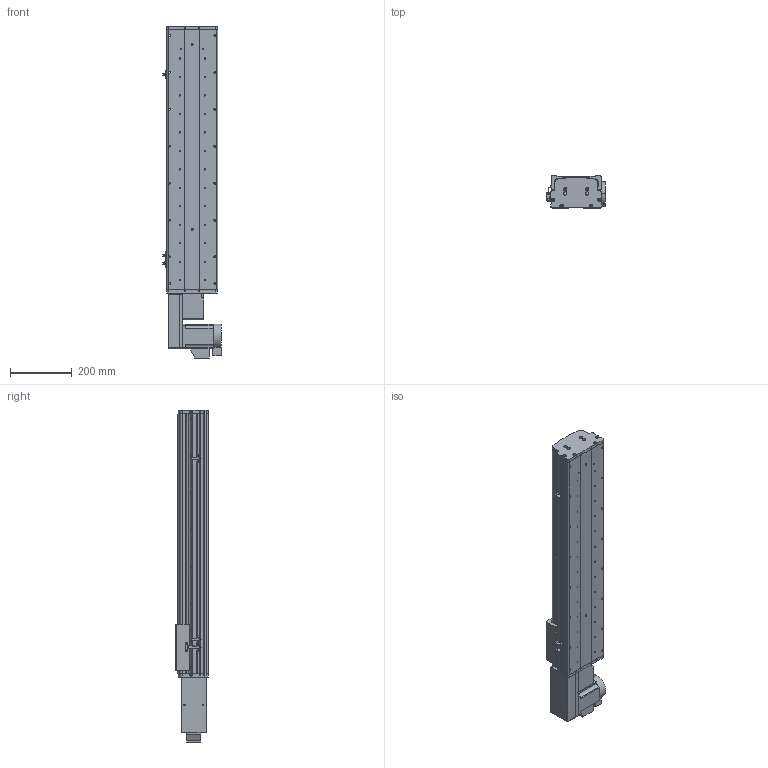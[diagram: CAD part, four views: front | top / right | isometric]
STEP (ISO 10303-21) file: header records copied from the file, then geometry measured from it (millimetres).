
FILE_DESCRIPTION (( 'STEP AP214' ), '1' );
FILE_NAME ('KSD165B-S600-MLB-CM - .STEP', '2017-10-16T06:05:58', ( '微软用户' ), ( '微软中国' ), 'SwSTEP 2.0', 'SolidWorks 2014', '' );
FILE_SCHEMA (( 'AUTOMOTIVE_DESIGN' ));
Length unit declared in the file: millimetre
Products named in the file (17): KSD165耀郪-ヶ傷啣1-肮祭湍; KSD165模组-后端板1-同步带; KSD165模组-同步带滑动座-最新版; KSD165B-S600-MLB-CM - ; HTPA26S5M250-A-H8 750W萇儂蚚; HTPA26S5M250-A-H8 400W萇儂蚚 ; 130宽模组马达安装板连板左右折同步带; 130宽模组保护罩上下左右折-同步带; 拸秶雄ん750W侜督萇儂; KSD165模组-同步带防尘盖1-600行程-最新版; KSD165模组同步带底板-600行程-最新; 165宽马达安装板同步带左-改; U倰嫖萇假蚾璃; U倰嫖萇EEㄜSX672; 覜茼え68遵圉猾敕; KSD165模组-同步带-防撞垫2; KSD165模组同步带-防撞垫1
Assembly tree (20 placements, depth 2):
  KSD165B-S600-MLB-CM - 
    KSD165模组-同步带滑动座-最新版
    KSD165模组-后端板1-同步带
    KSD165耀郪-ヶ傷啣1-肮祭湍
    KSD165模组同步带-防撞垫1
    KSD165模组-同步带-防撞垫2
    覜茼え68遵圉猾敕
    U倰嫖萇EEㄜSX672  x3
    U倰嫖萇假蚾璃  x3
    165宽马达安装板同步带左-改
    KSD165模组同步带底板-600行程-最新
    KSD165模组-同步带防尘盖1-600行程-最新版
    拸秶雄ん750W侜督萇儂
    130宽模组保护罩上下左右折-同步带
    130宽模组马达安装板连板左右折同步带
    HTPA26S5M250-A-H8 400W萇儂蚚 
    HTPA26S5M250-A-H8 750W萇儂蚚
Bounding box: 191.2 x 104 x 1078 mm (x, y, z)
Volume: 6109083 mm3; surface area: 1417760.8 mm2
Topology: 21 solids, 22 shells, 1921 faces, 5412 edges, 3532 vertices
Faces by surface type: cylinder 1225, plane 584, cone 112
Entity records: 61912 total; most frequent: CARTESIAN_POINT 12702, DIRECTION 10212, ORIENTED_EDGE 9484, EDGE_CURVE 4742, AXIS2_PLACEMENT_3D 4000, VERTEX_POINT 3124, CIRCLE 2276, VECTOR 2212
